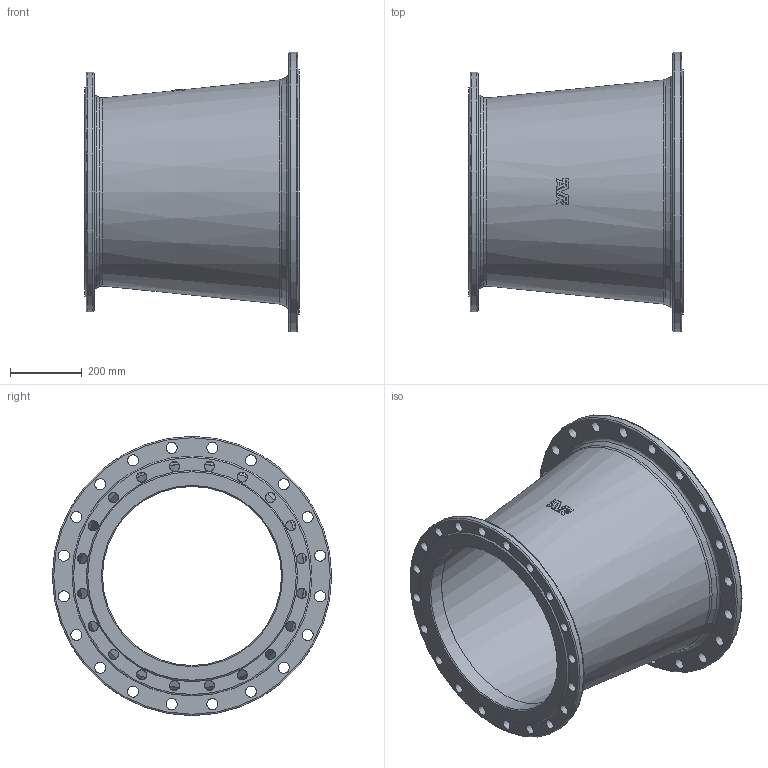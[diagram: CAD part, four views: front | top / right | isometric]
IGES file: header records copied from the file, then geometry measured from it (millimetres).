
Start section: SolidWorks IGES file using analytic representation for surfaces
Global section: file name: \\avksan2\techshare\PBM outline export from Enovia\O_712_2210_DN600_DN500_0X_REV01.igs; native system: SolidWorks 2022; preprocessor: SolidWorks 2022; author: pbm; date: 240808.113757; units: millimetre
Bounding box: 600 x 780 x 780 mm (x, y, z)
Surface area: 2783362.7 mm2 (no closed solid volume)
Topology: 0 solids, 0 shells, 109 faces, 550 edges, 488 vertices
Faces by surface type: revolution 68, bspline 41
